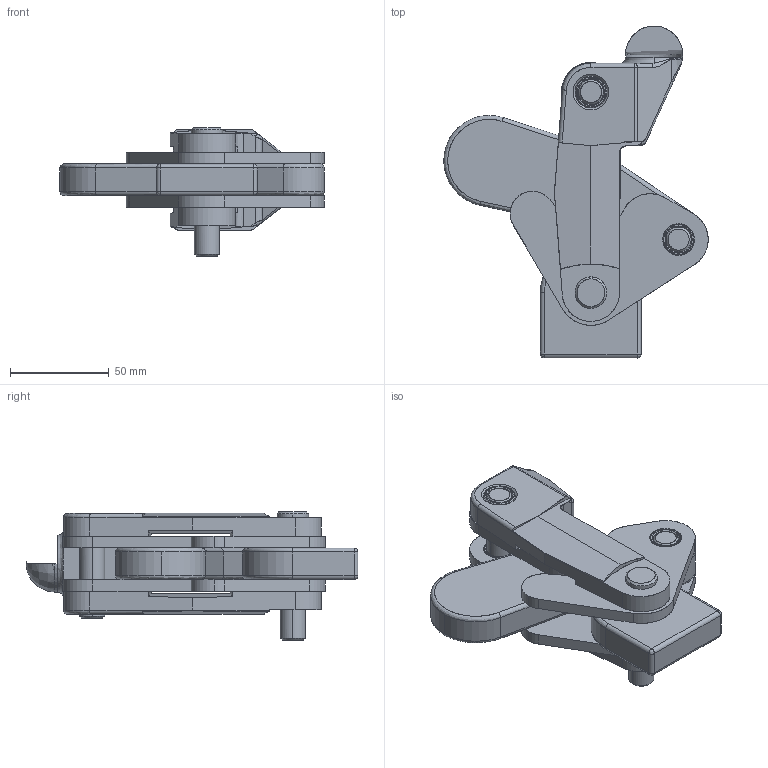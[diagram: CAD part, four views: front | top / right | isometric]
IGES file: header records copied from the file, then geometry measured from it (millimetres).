
Start section: SolidWorks IGES file using analytic representation for surfaces
Global section: file name: D:\GH Files\GH-SW-FILES\GH7\70605,70610,70615\70610.IGS; native system: SolidWorks 2006 by SolidWorks Corporation; preprocessor: SolidWorks 2006 by SolidWorks Corporation; author: Administrator; date: 060705.123733; units: millimetre
Bounding box: 133.9 x 168.09 x 65 mm (x, y, z)
Surface area: 94632.7 mm2 (no closed solid volume)
Topology: 0 solids, 0 shells, 1314 faces, 8949 edges, 8945 vertices
Faces by surface type: bspline 875, revolution 439
